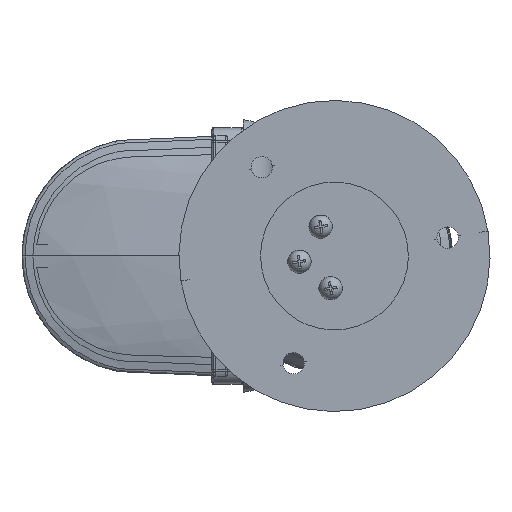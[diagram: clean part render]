
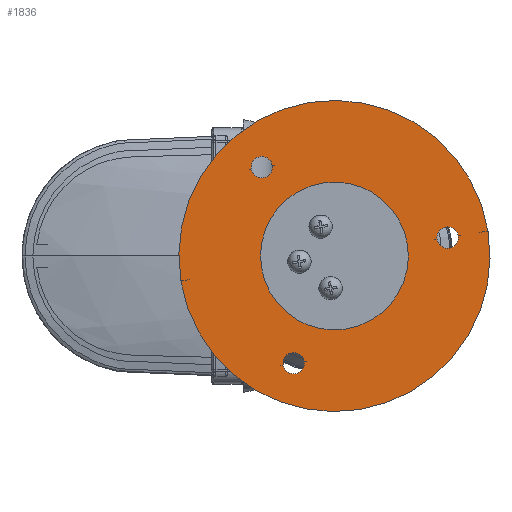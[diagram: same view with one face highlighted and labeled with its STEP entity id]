
A CAD part, front view. The second image highlights one B-rep face of the part: STEP entity #1836.
In plain terms, the highlighted planar face has unit normal (0, -1, 0).
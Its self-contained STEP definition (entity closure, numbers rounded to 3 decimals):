
#355 = CIRCLE ( 'NONE', #746, 19. ) ;
#382 = DIRECTION ( 'NONE',  ( 0., -1., 0. ) ) ;
#507 = EDGE_CURVE ( 'NONE', #10114, #3261, #7719, .T. ) ;
#746 = AXIS2_PLACEMENT_3D ( 'NONE', #9893, #3676, #5650 ) ;
#867 = DIRECTION ( 'NONE',  ( 0., -1., 0. ) ) ;
#1559 = AXIS2_PLACEMENT_3D ( 'NONE', #13923, #13888, #3865 ) ;
#1759 = AXIS2_PLACEMENT_3D ( 'NONE', #25947, #15801, #11878 ) ;
#1835 = ORIENTED_EDGE ( 'NONE', *, *, #507, .F. ) ;
#1836 = ADVANCED_FACE ( 'NONE', ( #4823, #5142, #8935, #13961, #13674 ), #18230, .T. ) ;
#2841 = ORIENTED_EDGE ( 'NONE', *, *, #7622, .F. ) ;
#3249 = CARTESIAN_POINT ( 'NONE',  ( -15.939, -63., 3.794 ) ) ;
#3261 = VERTEX_POINT ( 'NONE', #19327 ) ;
#3676 = DIRECTION ( 'NONE',  ( 0., -1., 0. ) ) ;
#3707 = CIRCLE ( 'NONE', #1559, 2.75 ) ;
#3716 = DIRECTION ( 'NONE',  ( 0.987, 0., 0.16 ) ) ;
#3865 = DIRECTION ( 'NONE',  ( 0.987, 0., 0.16 ) ) ;
#4384 = DIRECTION ( 'NONE',  ( 0.987, 0., 0.16 ) ) ;
#4775 = CARTESIAN_POINT ( 'NONE',  ( 29.119, -63., -14.772 ) ) ;
#4816 = EDGE_LOOP ( 'NONE', ( #13761, #8560 ) ) ;
#4823 = FACE_BOUND ( 'NONE', #19594, .T. ) ;
#5142 = FACE_BOUND ( 'NONE', #17365, .T. ) ;
#5275 = ORIENTED_EDGE ( 'NONE', *, *, #15704, .T. ) ;
#5529 = AXIS2_PLACEMENT_3D ( 'NONE', #22901, #18853, #20751 ) ;
#5635 = AXIS2_PLACEMENT_3D ( 'NONE', #16050, #20069, #3716 ) ;
#5650 = DIRECTION ( 'NONE',  ( 0.987, 0., 0.16 ) ) ;
#5899 = CARTESIAN_POINT ( 'NONE',  ( -21.368, -63., 2.913 ) ) ;
#6026 = ORIENTED_EDGE ( 'NONE', *, *, #21508, .F. ) ;
#6815 = AXIS2_PLACEMENT_3D ( 'NONE', #12493, #382, #24737 ) ;
#7157 = VERTEX_POINT ( 'NONE', #11838 ) ;
#7622 = EDGE_CURVE ( 'NONE', #12279, #16012, #3707, .T. ) ;
#7647 = CIRCLE ( 'NONE', #6815, 2.75 ) ;
#7719 = CIRCLE ( 'NONE', #1759, 2.75 ) ;
#8086 = DIRECTION ( 'NONE',  ( 0.987, 0., 0.16 ) ) ;
#8104 = EDGE_CURVE ( 'NONE', #16012, #12279, #7647, .T. ) ;
#8560 = ORIENTED_EDGE ( 'NONE', *, *, #9355, .F. ) ;
#8735 = ORIENTED_EDGE ( 'NONE', *, *, #26227, .F. ) ;
#8853 = CIRCLE ( 'NONE', #17990, 2.75 ) ;
#8935 = FACE_BOUND ( 'NONE', #4816, .T. ) ;
#9355 = EDGE_CURVE ( 'NONE', #22742, #13228, #8853, .T. ) ;
#9893 = CARTESIAN_POINT ( 'NONE',  ( 0., -63., -19.5 ) ) ;
#10114 = VERTEX_POINT ( 'NONE', #19485 ) ;
#10123 = EDGE_LOOP ( 'NONE', ( #18176, #6026 ) ) ;
#10778 = VERTEX_POINT ( 'NONE', #18101 ) ;
#10801 = DIRECTION ( 'NONE',  ( 0.987, 0., 0.16 ) ) ;
#10829 = DIRECTION ( 'NONE',  ( 0., -1., 0. ) ) ;
#10893 = DIRECTION ( 'NONE',  ( 0., -1., 0. ) ) ;
#10916 = CIRCLE ( 'NONE', #21505, 40. ) ;
#11377 = EDGE_CURVE ( 'NONE', #13228, #22742, #25313, .T. ) ;
#11838 = CARTESIAN_POINT ( 'NONE',  ( -18.754, -63., -22.545 ) ) ;
#11878 = DIRECTION ( 'NONE',  ( 0.987, 0., 0.16 ) ) ;
#12279 = VERTEX_POINT ( 'NONE', #3249 ) ;
#12416 = DIRECTION ( 'NONE',  ( 0., -1., 0. ) ) ;
#12493 = CARTESIAN_POINT ( 'NONE',  ( -18.654, -63., 3.354 ) ) ;
#12914 = CARTESIAN_POINT ( 'NONE',  ( 0., -63., -19.5 ) ) ;
#13228 = VERTEX_POINT ( 'NONE', #18156 ) ;
#13674 = FACE_BOUND ( 'NONE', #10123, .T. ) ;
#13761 = ORIENTED_EDGE ( 'NONE', *, *, #11377, .F. ) ;
#13888 = DIRECTION ( 'NONE',  ( 0., -1., 0. ) ) ;
#13923 = CARTESIAN_POINT ( 'NONE',  ( -18.654, -63., 3.354 ) ) ;
#13961 = FACE_OUTER_BOUND ( 'NONE', #20630, .T. ) ;
#14319 = EDGE_CURVE ( 'NONE', #21689, #7157, #23005, .T. ) ;
#14581 = AXIS2_PLACEMENT_3D ( 'NONE', #14612, #22903, #4384 ) ;
#14612 = CARTESIAN_POINT ( 'NONE',  ( 29.119, -63., -14.772 ) ) ;
#14804 = AXIS2_PLACEMENT_3D ( 'NONE', #12914, #10829, #14842 ) ;
#14842 = DIRECTION ( 'NONE',  ( 0.987, 0., 0.16 ) ) ;
#14847 = EDGE_CURVE ( 'NONE', #18863, #10778, #24880, .T. ) ;
#15704 = EDGE_CURVE ( 'NONE', #10778, #18863, #10916, .T. ) ;
#15801 = DIRECTION ( 'NONE',  ( 0., -1., 0. ) ) ;
#16012 = VERTEX_POINT ( 'NONE', #5899 ) ;
#16050 = CARTESIAN_POINT ( 'NONE',  ( -10.465, -63., -47.081 ) ) ;
#16306 = AXIS2_PLACEMENT_3D ( 'NONE', #20205, #12416, #8086 ) ;
#16757 = CARTESIAN_POINT ( 'NONE',  ( 0., -63., -19.5 ) ) ;
#16854 = ORIENTED_EDGE ( 'NONE', *, *, #8104, .F. ) ;
#16870 = CARTESIAN_POINT ( 'NONE',  ( -39.483, -63., -25.911 ) ) ;
#17013 = DIRECTION ( 'NONE',  ( 0.987, 0., 0.16 ) ) ;
#17041 = ORIENTED_EDGE ( 'NONE', *, *, #14847, .T. ) ;
#17365 = EDGE_LOOP ( 'NONE', ( #16854, #2841 ) ) ;
#17990 = AXIS2_PLACEMENT_3D ( 'NONE', #4775, #867, #17013 ) ;
#18101 = CARTESIAN_POINT ( 'NONE',  ( 39.483, -63., -13.089 ) ) ;
#18156 = CARTESIAN_POINT ( 'NONE',  ( 26.404, -63., -15.213 ) ) ;
#18176 = ORIENTED_EDGE ( 'NONE', *, *, #14319, .F. ) ;
#18230 = PLANE ( 'NONE',  #16306 ) ;
#18853 = DIRECTION ( 'NONE',  ( 0., -1., 0. ) ) ;
#18863 = VERTEX_POINT ( 'NONE', #16870 ) ;
#19144 = CARTESIAN_POINT ( 'NONE',  ( 31.833, -63., -14.331 ) ) ;
#19327 = CARTESIAN_POINT ( 'NONE',  ( -13.179, -63., -47.522 ) ) ;
#19485 = CARTESIAN_POINT ( 'NONE',  ( -7.75, -63., -46.641 ) ) ;
#19594 = EDGE_LOOP ( 'NONE', ( #8735, #1835 ) ) ;
#20069 = DIRECTION ( 'NONE',  ( 0., -1., 0. ) ) ;
#20205 = CARTESIAN_POINT ( 'NONE',  ( -6.411, -63., 19.983 ) ) ;
#20212 = CARTESIAN_POINT ( 'NONE',  ( 18.754, -63., -16.455 ) ) ;
#20630 = EDGE_LOOP ( 'NONE', ( #5275, #17041 ) ) ;
#20751 = DIRECTION ( 'NONE',  ( 0.987, 0., 0.16 ) ) ;
#21505 = AXIS2_PLACEMENT_3D ( 'NONE', #16757, #10893, #10801 ) ;
#21508 = EDGE_CURVE ( 'NONE', #7157, #21689, #355, .T. ) ;
#21689 = VERTEX_POINT ( 'NONE', #20212 ) ;
#22398 = CIRCLE ( 'NONE', #5635, 2.75 ) ;
#22742 = VERTEX_POINT ( 'NONE', #19144 ) ;
#22901 = CARTESIAN_POINT ( 'NONE',  ( 0., -63., -19.5 ) ) ;
#22903 = DIRECTION ( 'NONE',  ( 0., -1., 0. ) ) ;
#23005 = CIRCLE ( 'NONE', #5529, 19. ) ;
#24737 = DIRECTION ( 'NONE',  ( 0.987, 0., 0.16 ) ) ;
#24880 = CIRCLE ( 'NONE', #14804, 40. ) ;
#25313 = CIRCLE ( 'NONE', #14581, 2.75 ) ;
#25947 = CARTESIAN_POINT ( 'NONE',  ( -10.465, -63., -47.081 ) ) ;
#26227 = EDGE_CURVE ( 'NONE', #3261, #10114, #22398, .T. ) ;
